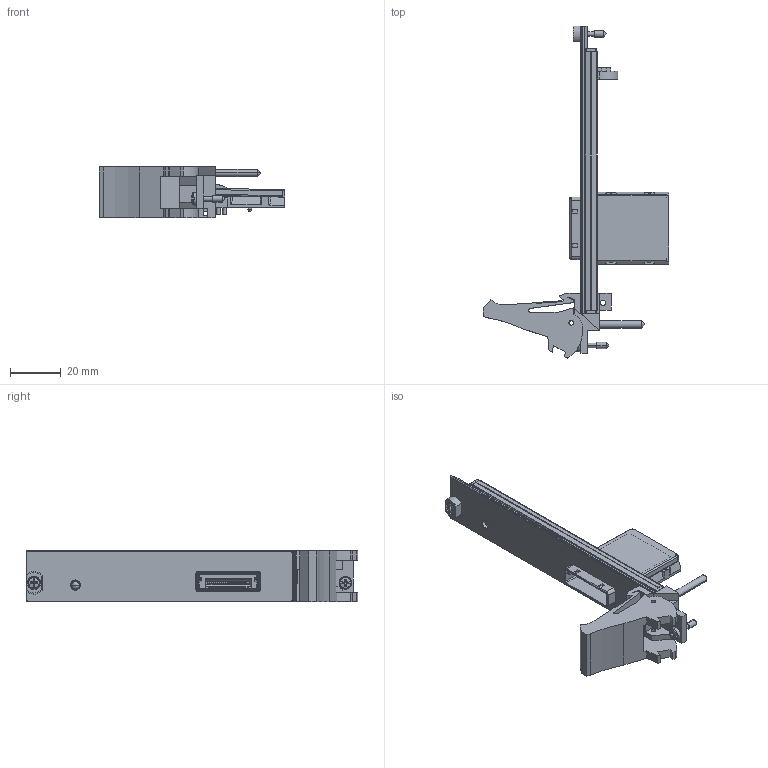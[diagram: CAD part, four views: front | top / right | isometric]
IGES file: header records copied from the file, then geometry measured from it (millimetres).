
Start section:  PTC IGES file: cu_pxie-8374.igs
Global section: file name: cu_pxie-8374.igs; native system: Pro/ENGINEER by Parametric Technology Corporation; preprocessor: 2011490; author: jjorden; organization: Unknown; date: 20130924.140331; units: inch
Bounding box: 73.03 x 130.5 x 20.31 mm (x, y, z)
Surface area: 21470.7 mm2 (no closed solid volume)
Topology: 0 solids, 0 shells, 2121 faces, 12132 edges, 12120 vertices
Faces by surface type: bspline 1554, revolution 567
